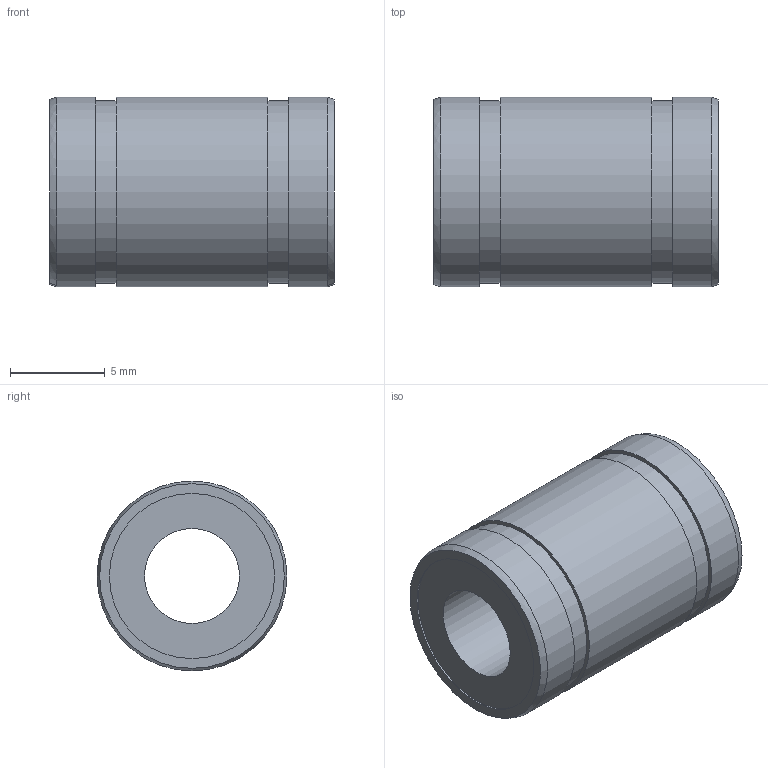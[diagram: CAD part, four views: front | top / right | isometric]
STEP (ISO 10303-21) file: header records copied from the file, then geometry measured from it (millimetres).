
FILE_DESCRIPTION((''),'2;1');
FILE_NAME('D:\製品 (図面)\カタログ用3D\リニアベアリング関連\STEP形式\L\L5.stp','2010-06-02T17:30:48',('Tsuchiya'),(''),'Autodesk Inventor 10','Autodesk Inventor 10','');
FILE_SCHEMA(('AUTOMOTIVE_DESIGN { 1 0 10303 214 1 1 1 1 }'));
Length unit declared in the file: millimetre
Products named in the file (1): L5
Bounding box: 15 x 10 x 10 mm (x, y, z)
Volume: 860.5 mm3; surface area: 841.5 mm2
Topology: 1 solids, 1 shells, 18 faces, 28 edges, 18 vertices
Faces by surface type: cylinder 8, plane 8, bspline 2
Full cylindrical faces by diameter (mm): 5 x1, 8.7 x2, 9.6 x2, 10 x3
Entity records: 435 total; most frequent: CARTESIAN_POINT 107, DIRECTION 70, ORIENTED_EDGE 36, EDGE_LOOP 36, AXIS2_PLACEMENT_3D 35, VERTEX_POINT 18, CIRCLE 18, EDGE_CURVE 18
